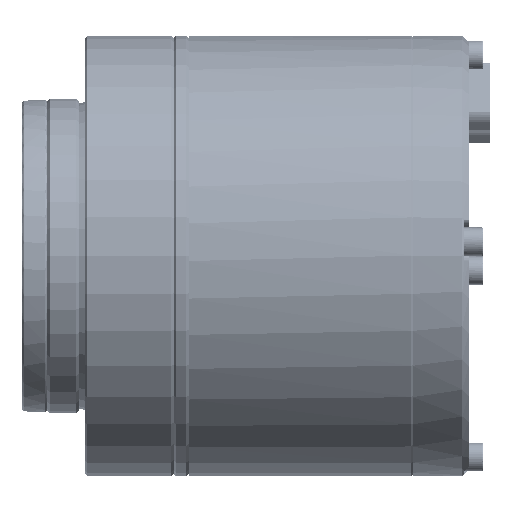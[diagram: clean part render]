
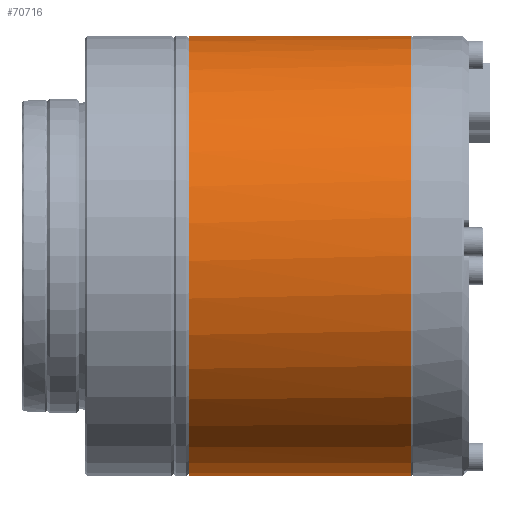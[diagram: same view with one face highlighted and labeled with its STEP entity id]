
A CAD part, top view. The second image highlights one B-rep face of the part: STEP entity #70716.
In plain terms, the highlighted cylindrical face has radius 35 mm (diameter 70 mm), a full revolution.
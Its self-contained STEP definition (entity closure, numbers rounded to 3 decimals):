
#3432 = EDGE_LOOP ( 'NONE', ( #6111 ) ) ;
#6111 = ORIENTED_EDGE ( 'NONE', *, *, #166624, .F. ) ;
#13120 = DIRECTION ( 'NONE',  ( 0., -0.707, -0.707 ) ) ;
#18058 = AXIS2_PLACEMENT_3D ( 'NONE', #175423, #57324, #42691 ) ;
#23019 = VERTEX_POINT ( 'NONE', #168458 ) ;
#26816 = DIRECTION ( 'NONE',  ( 0., -1., 0. ) ) ;
#42691 = DIRECTION ( 'NONE',  ( 0., 0.707, 0.707 ) ) ;
#49149 = VERTEX_POINT ( 'NONE', #122361 ) ;
#50710 = EDGE_CURVE ( 'NONE', #23019, #23019, #87578, .T. ) ;
#54784 = AXIS2_PLACEMENT_3D ( 'NONE', #177035, #55105, #13120 ) ;
#55105 = DIRECTION ( 'NONE',  ( -1., 0., 0. ) ) ;
#57324 = DIRECTION ( 'NONE',  ( 1., 0., 0. ) ) ;
#57964 = CIRCLE ( 'NONE', #54784, 35. ) ;
#69599 = EDGE_LOOP ( 'NONE', ( #161914 ) ) ;
#70716 = ADVANCED_FACE ( 'NONE', ( #172545, #157888 ), #98359, .T. ) ;
#87578 = CIRCLE ( 'NONE', #115718, 35. ) ;
#98359 = CYLINDRICAL_SURFACE ( 'NONE', #18058, 35. ) ;
#101935 = CARTESIAN_POINT ( 'NONE',  ( 52.125, 0., 0. ) ) ;
#115718 = AXIS2_PLACEMENT_3D ( 'NONE', #101935, #146814, #26816 ) ;
#122361 = CARTESIAN_POINT ( 'NONE',  ( 16.725, -24.749, -24.749 ) ) ;
#146814 = DIRECTION ( 'NONE',  ( -1., 0., 0. ) ) ;
#157888 = FACE_OUTER_BOUND ( 'NONE', #3432, .T. ) ;
#161914 = ORIENTED_EDGE ( 'NONE', *, *, #50710, .T. ) ;
#166624 = EDGE_CURVE ( 'NONE', #49149, #49149, #57964, .T. ) ;
#168458 = CARTESIAN_POINT ( 'NONE',  ( 52.125, -35., 0. ) ) ;
#172545 = FACE_OUTER_BOUND ( 'NONE', #69599, .T. ) ;
#175423 = CARTESIAN_POINT ( 'NONE',  ( 16.725, 0., 0. ) ) ;
#177035 = CARTESIAN_POINT ( 'NONE',  ( 16.725, 0., 0. ) ) ;
